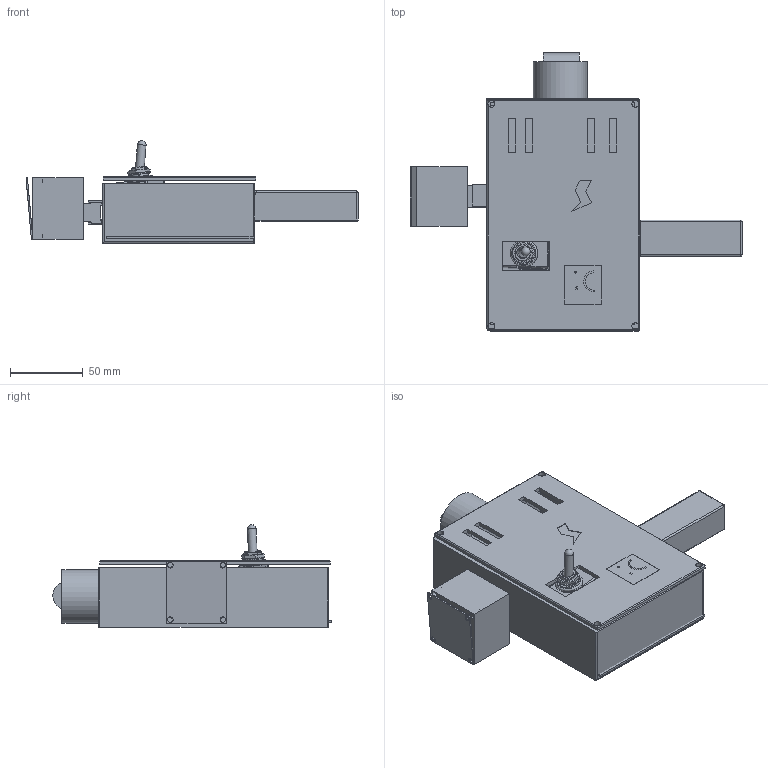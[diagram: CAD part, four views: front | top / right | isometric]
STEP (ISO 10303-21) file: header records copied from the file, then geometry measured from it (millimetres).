
FILE_DESCRIPTION(/* description */ ('STEP AP242 Edition 2','CAx-IF Rec.Pracs.---Representation and Presentation of Product Manufacturing Information (PMI)---4.0---2014-10-13','CAx-IF Rec.Pracs.---3D Tessellated Geometry---0.4---2014-09-14','2;1','CAx-IF Rec.Pracs.---User Defined Attributes---1.5---2016-08-15'),/* implementation_level */ '2;1');
FILE_NAME(/* name */ '6a15f1be6c49032cdec75420',/* time_stamp */ '2026-05-26T19:17:20Z',/* author */ (''),/* organization */ (''),/* preprocessor_version */ 'ST-DEVELOPER v20',/* originating_system */ 'ONSHAPE BY PTC INC, 1.215',/* authorisation */ ' ');
FILE_SCHEMA (('AP242_MANAGED_MODEL_BASED_3D_ENGINEERING_MIM_LF { 1 0 10303 442 3 1 4 }'));
Length unit declared in the file: metre
Products named in the file (28): Assembly 1; L_Axial_L11.0mm_D4.5mm_P15.24mm_Horizontal_Fastron_MECC; C_Disc_D5.0mm_W2.5mm_P5.00mm; TOGGLE; Part 2; CP_Radial_D5.0mm_P2.00mm; Part 1; DIP-8_W7.62mm; R_Axial_DIN0411_L9.9mm_D3.6mm_P12.70mm_Horizontal; CP_Radial_D10.0mm_P5.00mm; D_DO-41_SOD81_P10.16mm_Horizontal; emp_PCB; PinHeader_1x02_P2.54mm_Vertical; CP_Radial_D6.3mm_P2.50mm; PinHeader_1x01_P2.54mm_Vertical; TO-220-3_Vertical; C_Disc_D4.7mm_W2.5mm_P5.00mm
Assembly tree (27 placements, depth 2):
  Assembly 1
    L_Axial_L11.0mm_D4.5mm_P15.24mm_Horizontal_Fastron_MECC
    C_Disc_D5.0mm_W2.5mm_P5.00mm
    TOGGLE
    TOGGLE
    Part 2
    TOGGLE
    CP_Radial_D5.0mm_P2.00mm
    TOGGLE
    Part 1
    DIP-8_W7.62mm
    R_Axial_DIN0411_L9.9mm_D3.6mm_P12.70mm_Horizontal
    CP_Radial_D10.0mm_P5.00mm
    D_DO-41_SOD81_P10.16mm_Horizontal
    emp_PCB
    TOGGLE
    Part 2
    TOGGLE
    PinHeader_1x02_P2.54mm_Vertical
    CP_Radial_D6.3mm_P2.50mm
    Part 1
    PinHeader_1x01_P2.54mm_Vertical
    TOGGLE
    TOGGLE
    Part 1
    TO-220-3_Vertical
    C_Disc_D4.7mm_W2.5mm_P5.00mm
    TOGGLE
Bounding box: 228.78 x 191.81 x 70.6 mm (x, y, z)
Volume: 212084.5 mm3; surface area: 189838.1 mm2
Topology: 27 solids, 30 shells, 1020 faces, 2573 edges, 1643 vertices
Faces by surface type: plane 698, cylinder 244, torus 48, sphere 15, cone 13, bspline 2
Full cylindrical faces by diameter (mm): 0.5 x12, 0.7 x6, 0.8 x44, 1 x11, 1.1 x5, 1.2 x14, 1.7 x2, 2 x5, 2.7 x2, 2.72 x1, 3.24 x1, 3.5 x5, 3.6 x2, 3.735 x1, 3.8 x4, 3.95 x10, 4.2 x6, 4.41 x3, 4.5 x2, 4.8 x4, 5 x2, 6 x1, 6.3 x2, 7 x3, 8 x1, 9.1 x1, 10 x2, 11 x1, 12.2 x1, 13.8 x1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
Entity records: 31697 total; most frequent: CARTESIAN_POINT 6218, DIRECTION 4881, ORIENTED_EDGE 4622, EDGE_CURVE 2311, LINE 1669, VECTOR 1669, AXIS2_PLACEMENT_3D 1606, VERTEX_POINT 1595
